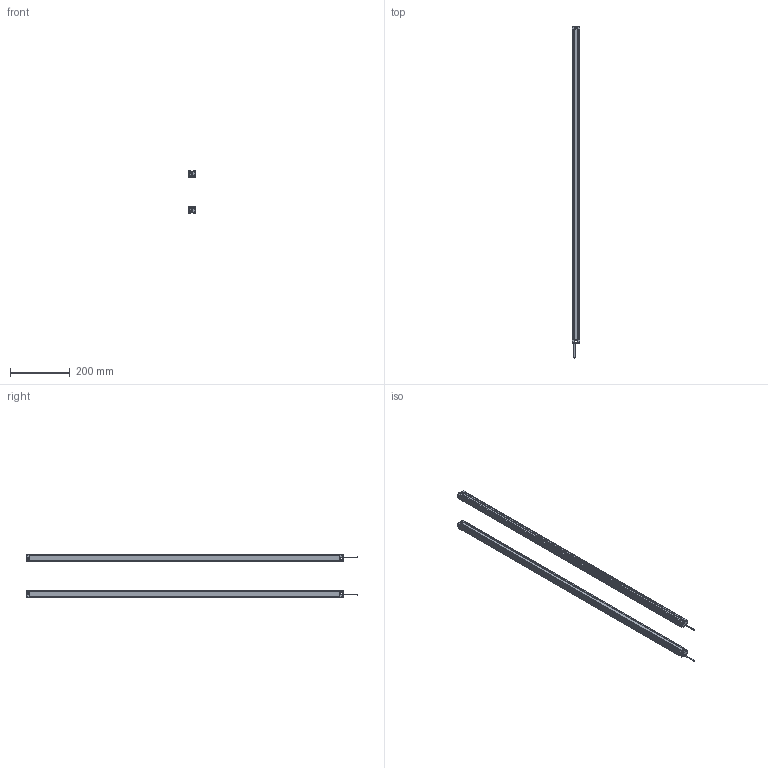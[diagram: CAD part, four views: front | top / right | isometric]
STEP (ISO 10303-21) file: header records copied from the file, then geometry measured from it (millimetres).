
FILE_DESCRIPTION (( 'STEP AP214' ), '1' );
FILE_NAME ('MTC5220.STEP', '2022-08-02T09:06:45', ( '' ), ( '' ), 'SwSTEP 2.0', 'SolidWorks 2018', '' );
FILE_SCHEMA (( 'AUTOMOTIVE_DESIGN' ));
Length unit declared in the file: millimetre
Products named in the file (5): 噩砃P02^MTC; P01^MTC; P02^MTC; MTC5220; MTC waike^MTC
Assembly tree (6 placements, depth 2):
  MTC5220
    MTC waike^MTC  x2
    P01^MTC  x2
    P02^MTC
    噩砃P02^MTC
Bounding box: 25 x 1112 x 141.4 mm (x, y, z)
Volume: 349623.2 mm3; surface area: 484649.7 mm2
Topology: 8 solids, 8 shells, 480 faces, 1396 edges, 924 vertices
Faces by surface type: plane 272, cylinder 208
Entity records: 10886 total; most frequent: DIRECTION 1881, CARTESIAN_POINT 1878, ORIENTED_EDGE 1846, EDGE_CURVE 923, AXIS2_PLACEMENT_3D 637, VERTEX_POINT 610, LINE 607, VECTOR 607
